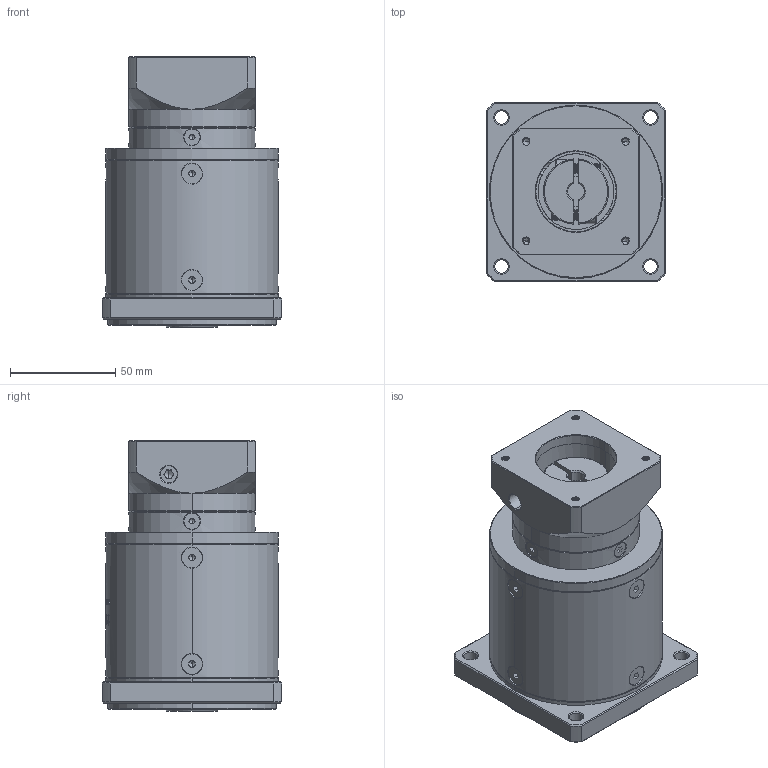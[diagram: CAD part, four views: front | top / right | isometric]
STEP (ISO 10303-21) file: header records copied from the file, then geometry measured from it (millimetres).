
FILE_DESCRIPTION (( 'STEP AP214' ), '1' );
FILE_NAME ('ZF80-K15-L3-8-38.1-47.14X47.14-M4.step', '2022-09-16T05:30:32', ( '' ), ( 'Microsoft' ), 'SwSTEP 2.0', 'SolidWorks 2016', '' );
FILE_SCHEMA (( 'AUTOMOTIVE_DESIGN' ));
Length unit declared in the file: millimetre
Products named in the file (1): ZF80-K15-L3-8-38.1-47.14X47.14-M4
Bounding box: 85 x 85 x 128.5 mm (x, y, z)
Volume: 561066.3 mm3; surface area: 71012 mm2
Topology: 18 solids, 18 shells, 1953 faces, 5120 edges, 3262 vertices
Faces by surface type: plane 941, cylinder 366, bspline 318, cone 314, torus 14
Entity records: 99296 total; most frequent: CARTESIAN_POINT 32914, ORIENTED_EDGE 10168, DIRECTION 8164, EDGE_CURVE 5084, VERTEX_POINT 3262, LINE 2758, VECTOR 2758, AXIS2_PLACEMENT_3D 2703
